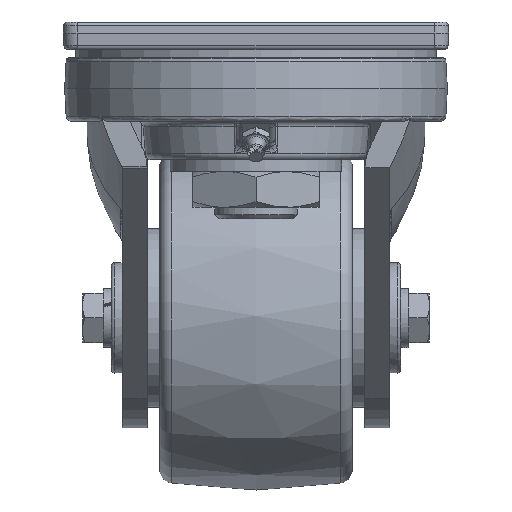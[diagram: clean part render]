
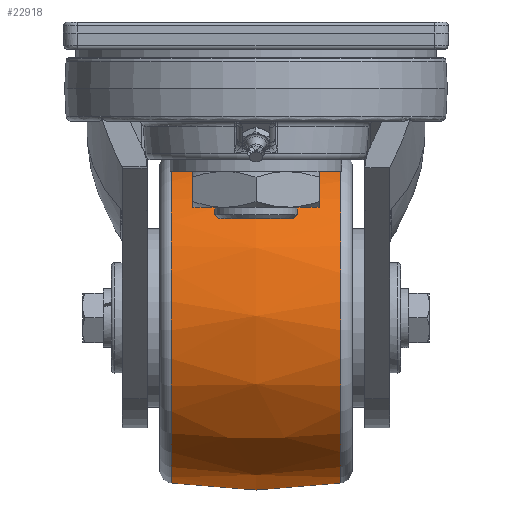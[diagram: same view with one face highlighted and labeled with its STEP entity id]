
A CAD part, left-side view. The second image highlights one B-rep face of the part: STEP entity #22918.
In plain terms, the highlighted free-form (B-spline) face has degree [2, 2] with [3, 9] control points.
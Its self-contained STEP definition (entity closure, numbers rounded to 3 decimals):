
#16=(
BOUNDED_SURFACE()
B_SPLINE_SURFACE(2,2,((#35152,#35153,#35154,#35155,#35156,#35157,#35158,
#35159,#35160),(#35161,#35162,#35163,#35164,#35165,#35166,#35167,#35168,
#35169),(#35170,#35171,#35172,#35173,#35174,#35175,#35176,#35177,#35178)),
 .UNSPECIFIED.,.F.,.T.,.F.)
B_SPLINE_SURFACE_WITH_KNOTS((3,3),(3,2,2,2,3),(-0.154,0.154),
(-3.142,-1.571,0.,1.571,3.142),
 .UNSPECIFIED.)
GEOMETRIC_REPRESENTATION_ITEM()
RATIONAL_B_SPLINE_SURFACE(((1.,0.707,1.,0.707,1.,
0.707,1.,0.707,1.),(0.988,0.699,
0.988,0.699,0.988,0.699,
0.988,0.699,0.988),(1.,0.707,
1.,0.707,1.,0.707,1.,0.707,1.)))
REPRESENTATION_ITEM('')
SURFACE()
);
#6567=FACE_OUTER_BOUND('',#7893,.T.);
#7893=EDGE_LOOP('',(#17992,#17993,#17994,#17995,#17996,#17997));
#8860=CIRCLE('',#24228,60.119);
#8864=CIRCLE('',#24232,60.119);
#8865=CIRCLE('',#24233,60.119);
#8866=CIRCLE('',#24234,60.119);
#8867=CIRCLE('',#24235,200.);
#10075=VERTEX_POINT('',#35143);
#10076=VERTEX_POINT('',#35144);
#10079=VERTEX_POINT('',#35179);
#10080=VERTEX_POINT('',#35180);
#12919=EDGE_CURVE('',#10075,#10076,#8860,.T.);
#12923=EDGE_CURVE('',#10076,#10075,#8864,.T.);
#12924=EDGE_CURVE('',#10079,#10080,#8865,.T.);
#12925=EDGE_CURVE('',#10080,#10079,#8866,.T.);
#12926=EDGE_CURVE('',#10080,#10076,#8867,.T.);
#17992=ORIENTED_EDGE('',*,*,#12924,.F.);
#17993=ORIENTED_EDGE('',*,*,#12925,.F.);
#17994=ORIENTED_EDGE('',*,*,#12926,.T.);
#17995=ORIENTED_EDGE('',*,*,#12919,.F.);
#17996=ORIENTED_EDGE('',*,*,#12923,.F.);
#17997=ORIENTED_EDGE('',*,*,#12926,.F.);
#22918=ADVANCED_FACE('',(#6567),#16,.F.);
#24228=AXIS2_PLACEMENT_3D('',#35145,#26925,#26926);
#24232=AXIS2_PLACEMENT_3D('',#35151,#26933,#26934);
#24233=AXIS2_PLACEMENT_3D('',#35181,#26935,#26936);
#24234=AXIS2_PLACEMENT_3D('',#35182,#26937,#26938);
#24235=AXIS2_PLACEMENT_3D('',#35183,#26939,#26940);
#26925=DIRECTION('center_axis',(0.,1.,0.));
#26926=DIRECTION('ref_axis',(-0.716,0.,-0.698));
#26933=DIRECTION('center_axis',(0.,1.,0.));
#26934=DIRECTION('ref_axis',(-0.716,0.,-0.698));
#26935=DIRECTION('center_axis',(0.,-1.,0.));
#26936=DIRECTION('ref_axis',(-0.716,0.,-0.698));
#26937=DIRECTION('center_axis',(0.,-1.,0.));
#26938=DIRECTION('ref_axis',(-0.716,0.,-0.698));
#26939=DIRECTION('center_axis',(0.698,0.,
-0.716));
#26940=DIRECTION('ref_axis',(-0.716,0.,-0.698));
#35143=CARTESIAN_POINT('',(120.538,30.769,-52.524));
#35144=CARTESIAN_POINT('',(34.462,30.769,-136.476));
#35145=CARTESIAN_POINT('Origin',(77.5,30.769,-94.5));
#35151=CARTESIAN_POINT('Origin',(77.5,30.769,-94.5));
#35152=CARTESIAN_POINT('Ctrl Pts',(34.462,30.769,-136.476));
#35153=CARTESIAN_POINT('Ctrl Pts',(76.438,30.769,-179.514));
#35154=CARTESIAN_POINT('Ctrl Pts',(119.476,30.769,-137.538));
#35155=CARTESIAN_POINT('Ctrl Pts',(162.514,30.769,-95.562));
#35156=CARTESIAN_POINT('Ctrl Pts',(120.538,30.769,-52.524));
#35157=CARTESIAN_POINT('Ctrl Pts',(78.562,30.769,-9.486));
#35158=CARTESIAN_POINT('Ctrl Pts',(35.524,30.769,-51.462));
#35159=CARTESIAN_POINT('Ctrl Pts',(-7.514,30.769,-93.438));
#35160=CARTESIAN_POINT('Ctrl Pts',(34.462,30.769,-136.476));
#35161=CARTESIAN_POINT('Ctrl Pts',(31.032,0.,
-139.821));
#35162=CARTESIAN_POINT('Ctrl Pts',(76.353,0.,
-186.289));
#35163=CARTESIAN_POINT('Ctrl Pts',(122.821,0.,
-140.968));
#35164=CARTESIAN_POINT('Ctrl Pts',(169.289,0.,
-95.647));
#35165=CARTESIAN_POINT('Ctrl Pts',(123.968,0.,
-49.179));
#35166=CARTESIAN_POINT('Ctrl Pts',(78.647,0.,
-2.711));
#35167=CARTESIAN_POINT('Ctrl Pts',(32.179,0.,
-48.032));
#35168=CARTESIAN_POINT('Ctrl Pts',(-14.289,0.,
-93.353));
#35169=CARTESIAN_POINT('Ctrl Pts',(31.032,0.,
-139.821));
#35170=CARTESIAN_POINT('Ctrl Pts',(34.462,-30.769,-136.476));
#35171=CARTESIAN_POINT('Ctrl Pts',(76.438,-30.769,-179.514));
#35172=CARTESIAN_POINT('Ctrl Pts',(119.476,-30.769,-137.538));
#35173=CARTESIAN_POINT('Ctrl Pts',(162.514,-30.769,-95.562));
#35174=CARTESIAN_POINT('Ctrl Pts',(120.538,-30.769,-52.524));
#35175=CARTESIAN_POINT('Ctrl Pts',(78.562,-30.769,-9.486));
#35176=CARTESIAN_POINT('Ctrl Pts',(35.524,-30.769,-51.462));
#35177=CARTESIAN_POINT('Ctrl Pts',(-7.514,-30.769,
-93.438));
#35178=CARTESIAN_POINT('Ctrl Pts',(34.462,-30.769,-136.476));
#35179=CARTESIAN_POINT('',(120.538,-30.769,-52.524));
#35180=CARTESIAN_POINT('',(34.462,-30.769,-136.476));
#35181=CARTESIAN_POINT('Origin',(77.5,-30.769,-94.5));
#35182=CARTESIAN_POINT('Origin',(77.5,-30.769,-94.5));
#35183=CARTESIAN_POINT('Origin',(175.934,0.,
1.505));
